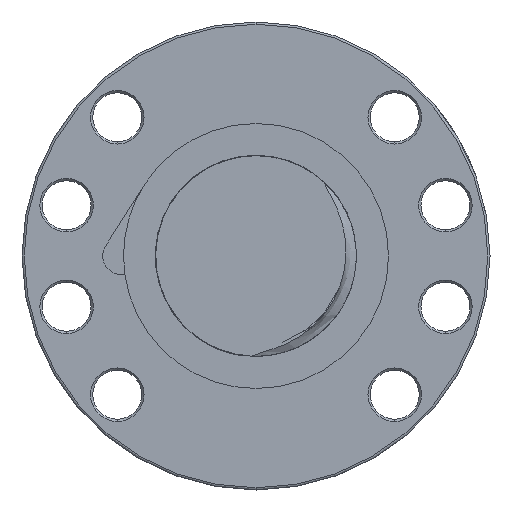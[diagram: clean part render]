
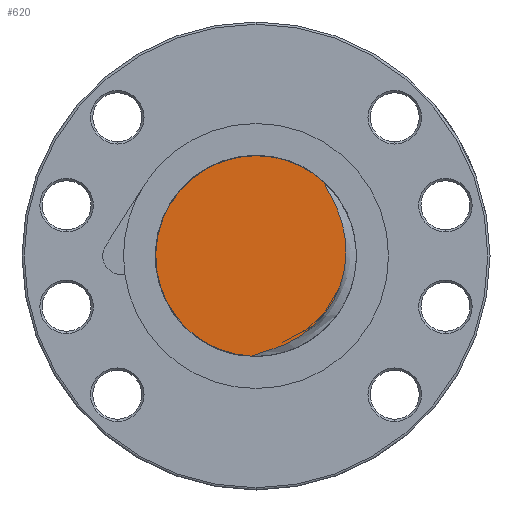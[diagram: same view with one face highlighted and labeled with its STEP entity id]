
A CAD part, left-side view. The second image highlights one B-rep face of the part: STEP entity #620.
In plain terms, the highlighted planar face has unit normal (-1, 0, 0).
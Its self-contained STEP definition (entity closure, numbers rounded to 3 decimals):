
#110 = EDGE_CURVE ( 'NONE', #111, #112, #2580, .T. ) ;
#111 = VERTEX_POINT ( 'NONE', #2581 ) ;
#112 = VERTEX_POINT ( 'NONE', #2575 ) ;
#250 = VERTEX_POINT ( 'NONE', #4055 ) ;
#447 = EDGE_CURVE ( 'NONE', #112, #250, #6123, .T. ) ;
#511 = ORIENTED_EDGE ( 'NONE', *, *, #447, .F. ) ;
#620 = ADVANCED_FACE ( 'NONE', ( #39031 ), #38969, .F. ) ;
#621 = EDGE_LOOP ( 'NONE', ( #622, #761, #511 ) ) ;
#622 = ORIENTED_EDGE ( 'NONE', *, *, #110, .F. ) ;
#761 = ORIENTED_EDGE ( 'NONE', *, *, #762, .T. ) ;
#762 = EDGE_CURVE ( 'NONE', #111, #250, #39580, .T. ) ;
#2575 = CARTESIAN_POINT ( 'NONE',  ( -295., 0., 22.5 ) ) ;
#2576 = DIRECTION ( 'NONE',  ( 0., 1., 0. ) ) ;
#2577 = DIRECTION ( 'NONE',  ( 1., 0., 0. ) ) ;
#2578 = CARTESIAN_POINT ( 'NONE',  ( -295., 0., 0. ) ) ;
#2579 = AXIS2_PLACEMENT_3D ( 'NONE', #2578, #2577, #2576 ) ;
#2580 = CIRCLE ( 'NONE', #2579, 22.5 ) ;
#2581 = CARTESIAN_POINT ( 'NONE',  ( -295., 1.025, -22.477 ) ) ;
#4055 = CARTESIAN_POINT ( 'NONE',  ( -295., -15.168, 16.619 ) ) ;
#6119 = DIRECTION ( 'NONE',  ( 0., 1., 0. ) ) ;
#6120 = DIRECTION ( 'NONE',  ( 1., 0., 0. ) ) ;
#6121 = CARTESIAN_POINT ( 'NONE',  ( -295., 0., 0. ) ) ;
#6122 = AXIS2_PLACEMENT_3D ( 'NONE', #6121, #6120, #6119 ) ;
#6123 = CIRCLE ( 'NONE', #6122, 22.5 ) ;
#38965 = DIRECTION ( 'NONE',  ( 0., 0., -1. ) ) ;
#38966 = DIRECTION ( 'NONE',  ( 1., 0., 0. ) ) ;
#38967 = CARTESIAN_POINT ( 'NONE',  ( -295., 0., 0. ) ) ;
#38968 = AXIS2_PLACEMENT_3D ( 'NONE', #38967, #38966, #38965 ) ;
#38969 = PLANE ( 'NONE',  #38968 ) ;
#39031 = FACE_OUTER_BOUND ( 'NONE', #621, .T. ) ;
#39528 = CARTESIAN_POINT ( 'NONE',  ( -295., -15.168, 16.619 ) ) ;
#39529 = CARTESIAN_POINT ( 'NONE',  ( -295., -15.264, 16.37 ) ) ;
#39530 = CARTESIAN_POINT ( 'NONE',  ( -295., -15.379, 16.129 ) ) ;
#39531 = CARTESIAN_POINT ( 'NONE',  ( -295., -15.619, 15.653 ) ) ;
#39532 = CARTESIAN_POINT ( 'NONE',  ( -295., -15.745, 15.418 ) ) ;
#39533 = CARTESIAN_POINT ( 'NONE',  ( -295., -16.126, 14.714 ) ) ;
#39534 = CARTESIAN_POINT ( 'NONE',  ( -295., -16.385, 14.247 ) ) ;
#39535 = CARTESIAN_POINT ( 'NONE',  ( -295., -17.143, 12.838 ) ) ;
#39536 = CARTESIAN_POINT ( 'NONE',  ( -295., -17.621, 11.884 ) ) ;
#39537 = CARTESIAN_POINT ( 'NONE',  ( -295., -18.473, 9.924 ) ) ;
#39538 = CARTESIAN_POINT ( 'NONE',  ( -295., -18.844, 8.924 ) ) ;
#39539 = CARTESIAN_POINT ( 'NONE',  ( -295., -19.461, 6.89 ) ) ;
#39540 = CARTESIAN_POINT ( 'NONE',  ( -295., -19.706, 5.853 ) ) ;
#39541 = CARTESIAN_POINT ( 'NONE',  ( -295., -20.058, 3.744 ) ) ;
#39542 = CARTESIAN_POINT ( 'NONE',  ( -295., -20.161, 2.688 ) ) ;
#39543 = CARTESIAN_POINT ( 'NONE',  ( -295., -20.225, 0.576 ) ) ;
#39544 = CARTESIAN_POINT ( 'NONE',  ( -295., -20.185, -0.481 ) ) ;
#39545 = CARTESIAN_POINT ( 'NONE',  ( -295., -20.01, -2.067 ) ) ;
#39546 = CARTESIAN_POINT ( 'NONE',  ( -295., -19.933, -2.598 ) ) ;
#39547 = CARTESIAN_POINT ( 'NONE',  ( -295., -19.741, -3.647 ) ) ;
#39548 = CARTESIAN_POINT ( 'NONE',  ( -295., -19.628, -4.166 ) ) ;
#39549 = CARTESIAN_POINT ( 'NONE',  ( -295., -19.233, -5.704 ) ) ;
#39550 = CARTESIAN_POINT ( 'NONE',  ( -295., -18.899, -6.705 ) ) ;
#39551 = CARTESIAN_POINT ( 'NONE',  ( -295., -18.29, -8.17 ) ) ;
#39552 = CARTESIAN_POINT ( 'NONE',  ( -295., -18.069, -8.653 ) ) ;
#39553 = CARTESIAN_POINT ( 'NONE',  ( -295., -17.591, -9.605 ) ) ;
#39554 = CARTESIAN_POINT ( 'NONE',  ( -295., -17.333, -10.076 ) ) ;
#39555 = CARTESIAN_POINT ( 'NONE',  ( -295., -16.516, -11.448 ) ) ;
#39556 = CARTESIAN_POINT ( 'NONE',  ( -295., -15.912, -12.316 ) ) ;
#39557 = CARTESIAN_POINT ( 'NONE',  ( -295., -14.587, -13.96 ) ) ;
#39558 = CARTESIAN_POINT ( 'NONE',  ( -295., -13.867, -14.737 ) ) ;
#39559 = CARTESIAN_POINT ( 'NONE',  ( -295., -12.698, -15.833 ) ) ;
#39560 = CARTESIAN_POINT ( 'NONE',  ( -295., -12.295, -16.185 ) ) ;
#39561 = CARTESIAN_POINT ( 'NONE',  ( -295., -11.473, -16.857 ) ) ;
#39562 = CARTESIAN_POINT ( 'NONE',  ( -295., -11.052, -17.177 ) ) ;
#39563 = CARTESIAN_POINT ( 'NONE',  ( -295., -9.762, -18.094 ) ) ;
#39564 = CARTESIAN_POINT ( 'NONE',  ( -295., -8.865, -18.646 ) ) ;
#39565 = CARTESIAN_POINT ( 'NONE',  ( -295., -7.469, -19.392 ) ) ;
#39566 = CARTESIAN_POINT ( 'NONE',  ( -295., -6.995, -19.627 ) ) ;
#39567 = CARTESIAN_POINT ( 'NONE',  ( -295., -6.031, -20.07 ) ) ;
#39568 = CARTESIAN_POINT ( 'NONE',  ( -295., -5.539, -20.279 ) ) ;
#39569 = CARTESIAN_POINT ( 'NONE',  ( -295., -4.05, -20.866 ) ) ;
#39570 = CARTESIAN_POINT ( 'NONE',  ( -295., -3.038, -21.201 ) ) ;
#39571 = CARTESIAN_POINT ( 'NONE',  ( -295., -1.507, -21.662 ) ) ;
#39572 = CARTESIAN_POINT ( 'NONE',  ( -295., -0.994, -21.808 ) ) ;
#39573 = CARTESIAN_POINT ( 'NONE',  ( -295., -0.228, -22.036 ) ) ;
#39574 = CARTESIAN_POINT ( 'NONE',  ( -295., 0.027, -22.114 ) ) ;
#39575 = CARTESIAN_POINT ( 'NONE',  ( -295., 0.532, -22.281 ) ) ;
#39576 = CARTESIAN_POINT ( 'NONE',  ( -295., 0.783, -22.369 ) ) ;
#39577 = CARTESIAN_POINT ( 'NONE',  ( -295., 1.025, -22.477 ) ) ;
#39580 = B_SPLINE_CURVE_WITH_KNOTS ( 'NONE', 3,
 ( #39577, #39576, #39575, #39574, #39573, #39572, #39571, #39570, #39569, #39568, #39567, #39566, #39565, #39564, #39563, #39562, #39561, #39560, #39559, #39558, #39557, #39556, #39555, #39554, #39553, #39552, #39551, #39550, #39549, #39548, #39547, #39546, #39545, #39544, #39543, #39542, #39541, #39540, #39539, #39538, #39537, #39536, #39535, #39534, #39533, #39532, #39531, #39530, #39529, #39528 ),
 .UNSPECIFIED., .F., .F.,
 ( 4, 2, 2, 2, 2, 2, 2, 2, 2, 2, 2, 2, 2, 2, 2, 2, 2, 2, 2, 2, 2, 2, 2, 2, 4 ),
 ( 0.001, 0.001, 0.002, 0.004, 0.007, 0.009, 0.01, 0.013, 0.015, 0.016, 0.02, 0.023, 0.024, 0.026, 0.029, 0.031, 0.032, 0.036, 0.039, 0.042, 0.045, 0.048, 0.05, 0.051, 0.051 ),
 .UNSPECIFIED. ) ;
